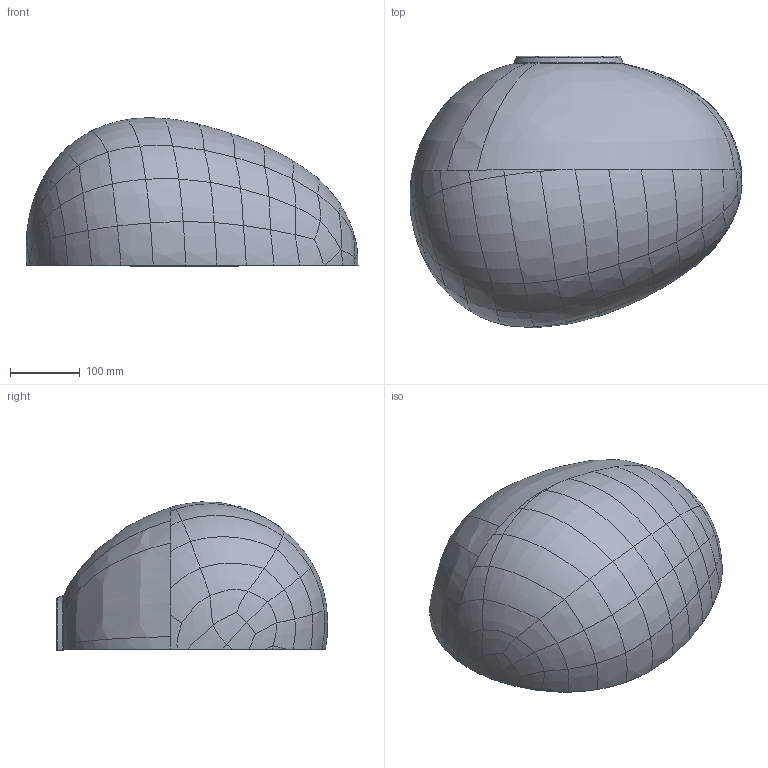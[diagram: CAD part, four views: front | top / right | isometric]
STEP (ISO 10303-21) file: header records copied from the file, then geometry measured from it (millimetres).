
FILE_DESCRIPTION (( 'STEP AP203' ), '1' );
FILE_NAME ('168_GRANDE-SEMI-2_W_ME.STEP', '2021-04-07T08:49:59', ( '' ), ( '' ), 'SwSTEP 2.0', 'SolidWorks 2021', '' );
FILE_SCHEMA (( 'CONFIG_CONTROL_DESIGN' ));
Products named in the file (1): 168_GRANDE-SEMI-2_W_ME
Bounding box: 474.74 x 387.96 x 211.94 mm (x, y, z)
Volume: 1145601.7 mm3; surface area: 592682.1 mm2
Topology: 2 solids, 2 shells, 396 faces, 985 edges, 573 vertices
Faces by surface type: bspline 175, cylinder 76, plane 57, torus 43, cone 23, sphere 22
Entity records: 224029 total; most frequent: CARTESIAN_POINT 216197, ORIENTED_EDGE 1926, DIRECTION 1137, EDGE_CURVE 963, VERTEX_POINT 573, AXIS2_PLACEMENT_3D 463, B_SPLINE_CURVE_WITH_KNOTS 461, EDGE_LOOP 398
